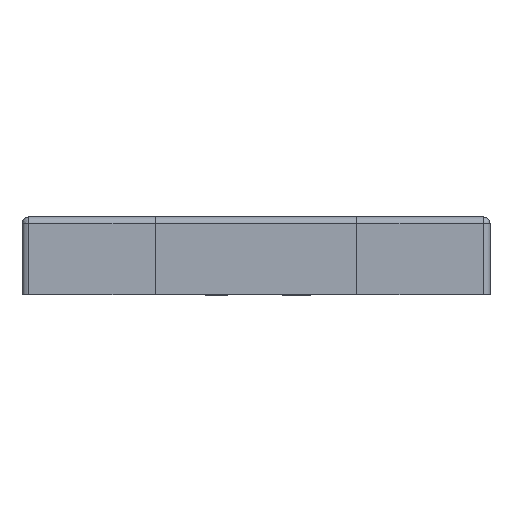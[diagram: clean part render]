
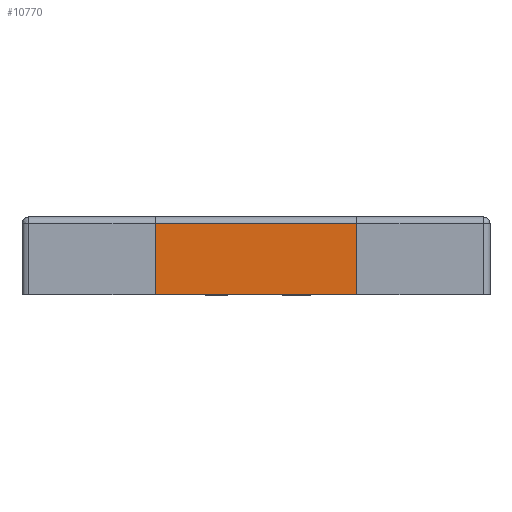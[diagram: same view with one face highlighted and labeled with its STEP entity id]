
A CAD part, left-side view. The second image highlights one B-rep face of the part: STEP entity #10770.
In plain terms, the highlighted planar face has unit normal (-1, 0, 0).
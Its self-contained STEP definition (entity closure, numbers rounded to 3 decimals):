
#69 = VECTOR ( 'NONE', #20486, 1000. ) ;
#415 = LINE ( 'NONE', #20177, #3363 ) ;
#915 = DIRECTION ( 'NONE',  ( 0., -1., 0. ) ) ;
#3363 = VECTOR ( 'NONE', #20419, 1000. ) ;
#5394 = AXIS2_PLACEMENT_3D ( 'NONE', #23671, #31859, #34511 ) ;
#6667 = EDGE_CURVE ( 'NONE', #19713, #9775, #415, .T. ) ;
#7191 = CARTESIAN_POINT ( 'NONE',  ( -64.735, 13.453, 127.082 ) ) ;
#7967 = FACE_OUTER_BOUND ( 'NONE', #20194, .T. ) ;
#9287 = LINE ( 'NONE', #28045, #20783 ) ;
#9314 = EDGE_CURVE ( 'NONE', #17584, #30503, #20009, .T. ) ;
#9775 = VERTEX_POINT ( 'NONE', #24108 ) ;
#10298 = CARTESIAN_POINT ( 'NONE',  ( -64.735, 13.453, 120.082 ) ) ;
#10770 = ADVANCED_FACE ( 'NONE', ( #7967 ), #26274, .T. ) ;
#15344 = LINE ( 'NONE', #23396, #69 ) ;
#15433 = CARTESIAN_POINT ( 'NONE',  ( -64.735, 13.453, 111.582 ) ) ;
#17182 = ORIENTED_EDGE ( 'NONE', *, *, #9314, .F. ) ;
#17584 = VERTEX_POINT ( 'NONE', #15433 ) ;
#19713 = VERTEX_POINT ( 'NONE', #27652 ) ;
#19738 = ORIENTED_EDGE ( 'NONE', *, *, #29520, .T. ) ;
#20009 = LINE ( 'NONE', #10298, #25488 ) ;
#20177 = CARTESIAN_POINT ( 'NONE',  ( -64.735, -30.547, 120.082 ) ) ;
#20194 = EDGE_LOOP ( 'NONE', ( #30779, #33053, #17182, #19738 ) ) ;
#20419 = DIRECTION ( 'NONE',  ( 0., 0., -1. ) ) ;
#20486 = DIRECTION ( 'NONE',  ( 0., -1., 0. ) ) ;
#20783 = VECTOR ( 'NONE', #915, 1000. ) ;
#21348 = DIRECTION ( 'NONE',  ( 0., 0., 1. ) ) ;
#23396 = CARTESIAN_POINT ( 'NONE',  ( -64.735, -0.547, 111.582 ) ) ;
#23567 = EDGE_CURVE ( 'NONE', #30503, #19713, #9287, .T. ) ;
#23671 = CARTESIAN_POINT ( 'NONE',  ( -64.735, -15.547, 111.582 ) ) ;
#24108 = CARTESIAN_POINT ( 'NONE',  ( -64.735, -30.547, 111.582 ) ) ;
#25488 = VECTOR ( 'NONE', #21348, 1000. ) ;
#26274 = PLANE ( 'NONE',  #5394 ) ;
#27652 = CARTESIAN_POINT ( 'NONE',  ( -64.735, -30.547, 127.082 ) ) ;
#28045 = CARTESIAN_POINT ( 'NONE',  ( -64.735, -145.697, 127.082 ) ) ;
#29520 = EDGE_CURVE ( 'NONE', #17584, #9775, #15344, .T. ) ;
#30503 = VERTEX_POINT ( 'NONE', #7191 ) ;
#30779 = ORIENTED_EDGE ( 'NONE', *, *, #6667, .F. ) ;
#31859 = DIRECTION ( 'NONE',  ( -1., 0., 0. ) ) ;
#33053 = ORIENTED_EDGE ( 'NONE', *, *, #23567, .F. ) ;
#34511 = DIRECTION ( 'NONE',  ( 0., 0., 1. ) ) ;
